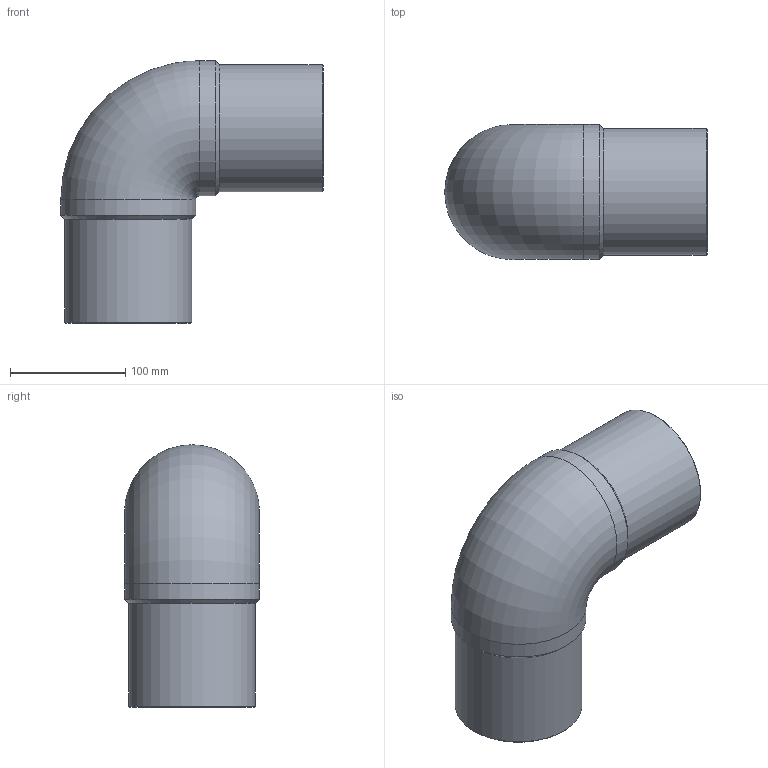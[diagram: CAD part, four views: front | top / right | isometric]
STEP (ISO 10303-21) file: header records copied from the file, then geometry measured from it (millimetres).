
FILE_DESCRIPTION(/* description */ ('Unknown'),/* implementation_level */ '2;1');
FILE_NAME(/* name */ 'G9P110C',/* time_stamp */ '2021-11-15T10:48:03+01:00',/* author */ ('Unknown'),/* organization */ ('Unknown'),/* preprocessor_version */ 'ST-DEVELOPER v16.7',/* originating_system */ 'Solid Edge',/* authorisation */ 'Unknown');
FILE_SCHEMA (('AUTOMOTIVE_DESIGN {1 0 10303 214 3 1 1}'));
Length unit declared in the file: millimetre
Products named in the file (1): G9P110C
Bounding box: 227.5 x 117 x 227.5 mm (x, y, z)
Volume: 1152841.3 mm3; surface area: 205740.7 mm2
Topology: 1 solids, 1 shells, 14 faces, 34 edges, 22 vertices
Faces by surface type: cylinder 6, cone 4, plane 2, torus 2
Full cylindrical faces by diameter (mm): 90 x2, 110 x2, 117 x2
Entity records: 374 total; most frequent: CARTESIAN_POINT 74, DIRECTION 60, ORIENTED_EDGE 38, AXIS2_PLACEMENT_3D 30, EDGE_LOOP 27, FACE_BOUND 27, EDGE_CURVE 19, VERTEX_POINT 18
